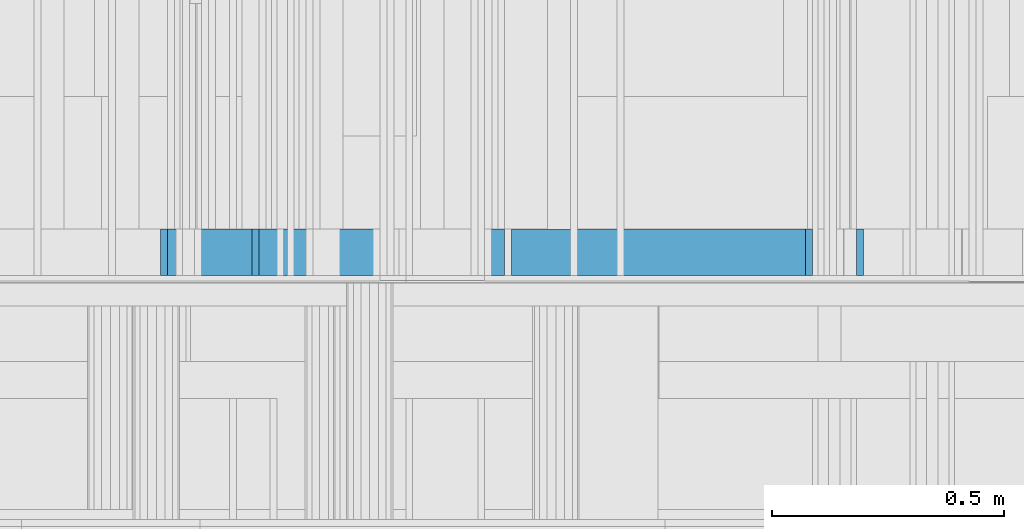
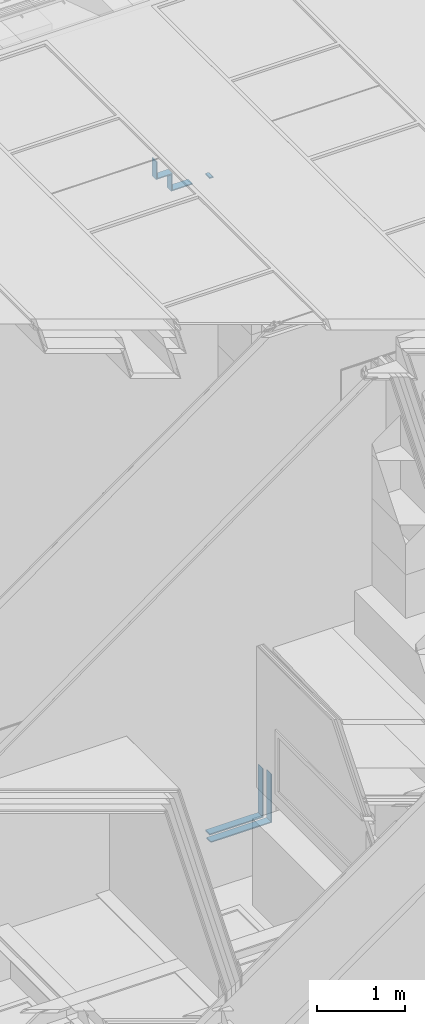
# One storey, part 229 of 583: 9 building element parts, 6 elements without a shape of their own.
"""IFC2X3 building model written with IfcOpenShell, lengths in metres."""

from ifc_helpers import new_model, entity, si_unit, converted_unit, derived_unit, money_unit, direction, frame, origin_with_axes, place, context, subcontext, project, spatial, polyline, outline, extrude, material, type_object, element, aggregate, save


model = new_model("IFC2X3")

# Units and contexts
model_context = context("Model", 3, precision=1e-05, world=origin_with_axes(), true_north=direction((0.0, 1.0)))
body_context = subcontext(model_context, "Body", "Model", "MODEL_VIEW", scale=1.0)
ifc_project = project(units=[si_unit("LENGTHUNIT", "METRE"), si_unit("AREAUNIT", "SQUARE_METRE"), si_unit("VOLUMEUNIT", "CUBIC_METRE"), si_unit("ABSORBEDDOSEUNIT", "GRAY"), si_unit("AMOUNTOFSUBSTANCEUNIT", "MOLE"), si_unit("DOSEEQUIVALENTUNIT", "SIEVERT"), si_unit("ELECTRICCAPACITANCEUNIT", "FARAD"), si_unit("ELECTRICCHARGEUNIT", "COULOMB"), si_unit("ELECTRICCONDUCTANCEUNIT", "SIEMENS"), si_unit("ELECTRICCURRENTUNIT", "AMPERE"), si_unit("ELECTRICRESISTANCEUNIT", "OHM"), si_unit("ELECTRICVOLTAGEUNIT", "VOLT"), si_unit("ENERGYUNIT", "JOULE"), si_unit("FORCEUNIT", "NEWTON"), si_unit("FREQUENCYUNIT", "HERTZ"), si_unit("ILLUMINANCEUNIT", "LUX"), si_unit("INDUCTANCEUNIT", "HENRY"), si_unit("LUMINOUSFLUXUNIT", "LUMEN"), si_unit("LUMINOUSINTENSITYUNIT", "CANDELA"), si_unit("MAGNETICFLUXDENSITYUNIT", "TESLA"), si_unit("MAGNETICFLUXUNIT", "WEBER"), si_unit("MASSUNIT", "GRAM"), converted_unit("PLANEANGLEUNIT", "degree", entity("IfcReal", 0.0174532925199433), si_unit("PLANEANGLEUNIT", "RADIAN"), dimensions=[0, 0, 0, 0, 0, 0, 0]), si_unit("POWERUNIT", "WATT"), si_unit("PRESSUREUNIT", "PASCAL"), si_unit("RADIOACTIVITYUNIT", "BECQUEREL"), si_unit("SOLIDANGLEUNIT", "STERADIAN"), si_unit("THERMODYNAMICTEMPERATUREUNIT", "KELVIN"), si_unit("TIMEUNIT", "SECOND"), derived_unit("ACCELERATIONUNIT", [(si_unit("LENGTHUNIT", "METRE"), 1), (si_unit("TIMEUNIT", "SECOND"), -2)]), derived_unit("ANGULARVELOCITYUNIT", [(converted_unit("PLANEANGLEUNIT", "degree", entity("IfcReal", 0.0174532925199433), si_unit("PLANEANGLEUNIT", "RADIAN"), dimensions=[0, 0, 0, 0, 0, 0, 0]), 1), (si_unit("TIMEUNIT", "SECOND"), -1)]), derived_unit("CURVATUREUNIT", [(converted_unit("PLANEANGLEUNIT", "degree", entity("IfcReal", 0.0174532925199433), si_unit("PLANEANGLEUNIT", "RADIAN"), dimensions=[0, 0, 0, 0, 0, 0, 0]), 1), (si_unit("LENGTHUNIT", "METRE"), -1)]), derived_unit("DYNAMICVISCOSITYUNIT", [(si_unit("PRESSUREUNIT", "PASCAL"), 1), (si_unit("TIMEUNIT", "SECOND"), 1)]), derived_unit("HEATFLUXDENSITYUNIT", [(si_unit("POWERUNIT", "WATT"), 1), (si_unit("LENGTHUNIT", "METRE"), -2)]), derived_unit("HEATINGVALUEUNIT", [(si_unit("ENERGYUNIT", "JOULE"), 1), (si_unit("MASSUNIT", "GRAM"), -1)]), derived_unit("INTEGERCOUNTRATEUNIT", [(si_unit("TIMEUNIT", "SECOND"), -1)]), derived_unit("IONCONCENTRATIONUNIT", [(si_unit("MASSUNIT", "GRAM"), 1), (si_unit("VOLUMEUNIT", "CUBIC_METRE"), -1)]), derived_unit("ISOTHERMALMOISTURECAPACITYUNIT", [(si_unit("VOLUMEUNIT", "CUBIC_METRE"), 1), (si_unit("MASSUNIT", "GRAM"), -1)]), derived_unit("KINEMATICVISCOSITYUNIT", [(si_unit("AREAUNIT", "SQUARE_METRE"), 1), (si_unit("TIMEUNIT", "SECOND"), -1)]), derived_unit("LINEARFORCEUNIT", [(si_unit("FORCEUNIT", "NEWTON"), 1), (si_unit("LENGTHUNIT", "METRE"), -1)]), derived_unit("LINEARMOMENTUNIT", [(si_unit("FORCEUNIT", "NEWTON"), 1), (si_unit("LENGTHUNIT", "METRE"), -1)]), derived_unit("LINEARSTIFFNESSUNIT", [(si_unit("FORCEUNIT", "NEWTON"), 1), (si_unit("LENGTHUNIT", "METRE"), -1)]), derived_unit("LINEARVELOCITYUNIT", [(si_unit("LENGTHUNIT", "METRE"), 1), (si_unit("TIMEUNIT", "SECOND"), -1)]), derived_unit("LUMINOUSINTENSITYDISTRIBUTIONUNIT", [(si_unit("LUMINOUSINTENSITYUNIT", "CANDELA"), 1), (si_unit("LUMINOUSFLUXUNIT", "LUMEN"), -1)]), derived_unit("MASSDENSITYUNIT", [(si_unit("MASSUNIT", "GRAM"), 1), (si_unit("VOLUMEUNIT", "CUBIC_METRE"), -1)]), derived_unit("MASSFLOWRATEUNIT", [(si_unit("MASSUNIT", "GRAM"), 1), (si_unit("TIMEUNIT", "SECOND"), -1)]), derived_unit("MASSPERLENGTHUNIT", [(si_unit("MASSUNIT", "GRAM"), 1), (si_unit("LENGTHUNIT", "METRE"), -1)]), derived_unit("MODULUSOFELASTICITYUNIT", [(si_unit("FORCEUNIT", "NEWTON"), 1), (si_unit("AREAUNIT", "SQUARE_METRE"), -1)]), derived_unit("MODULUSOFLINEARSUBGRADEREACTIONUNIT", [(si_unit("FORCEUNIT", "NEWTON"), 1), (si_unit("LENGTHUNIT", "METRE"), -2)]), derived_unit("MODULUSOFROTATIONALSUBGRADEREACTIONUNIT", [(si_unit("FORCEUNIT", "NEWTON"), 1), (si_unit("LENGTHUNIT", "METRE"), 1)]), derived_unit("MODULUSOFSUBGRADEREACTIONUNIT", [(si_unit("FORCEUNIT", "NEWTON"), 1), (si_unit("VOLUMEUNIT", "CUBIC_METRE"), -1)]), derived_unit("MOISTUREDIFFUSIVITYUNIT", [(si_unit("VOLUMEUNIT", "CUBIC_METRE"), 1), (si_unit("TIMEUNIT", "SECOND"), -1)]), derived_unit("MOLECULARWEIGHTUNIT", [(si_unit("MASSUNIT", "GRAM"), 1), (si_unit("AMOUNTOFSUBSTANCEUNIT", "MOLE"), -1)]), derived_unit("PLANARFORCEUNIT", [(si_unit("FORCEUNIT", "NEWTON"), 1), (si_unit("LENGTHUNIT", "METRE"), -2)]), derived_unit("ROTATIONALFREQUENCYUNIT", [(si_unit("TIMEUNIT", "SECOND"), -1)]), derived_unit("ROTATIONALMASSUNIT", [(si_unit("MASSUNIT", "GRAM"), 1), (si_unit("LENGTHUNIT", "METRE"), 2)]), derived_unit("ROTATIONALSTIFFNESSUNIT", [(si_unit("FORCEUNIT", "NEWTON"), 1), (si_unit("LENGTHUNIT", "METRE"), 1), (converted_unit("PLANEANGLEUNIT", "degree", entity("IfcReal", 0.0174532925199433), si_unit("PLANEANGLEUNIT", "RADIAN"), dimensions=[0, 0, 0, 0, 0, 0, 0]), -1)]), derived_unit("SECTIONAREAINTEGRALUNIT", [(si_unit("LENGTHUNIT", "METRE"), 5)]), derived_unit("SECTIONMODULUSUNIT", [(si_unit("LENGTHUNIT", "METRE"), 3)]), derived_unit("SHEARMODULUSUNIT", [(si_unit("FORCEUNIT", "NEWTON"), 1), (si_unit("AREAUNIT", "SQUARE_METRE"), -1)]), derived_unit("SOUNDPOWERUNIT", [(si_unit("ENERGYUNIT", "JOULE"), 1), (si_unit("TIMEUNIT", "SECOND"), -1)]), derived_unit("SPECIFICHEATCAPACITYUNIT", [(si_unit("FORCEUNIT", "NEWTON"), 1), (si_unit("MASSUNIT", "GRAM"), -1), (si_unit("THERMODYNAMICTEMPERATUREUNIT", "KELVIN"), -1)]), derived_unit("TEMPERATUREGRADIENTUNIT", [(si_unit("THERMODYNAMICTEMPERATUREUNIT", "KELVIN"), 1), (si_unit("LENGTHUNIT", "METRE"), -1)]), derived_unit("THERMALADMITTANCEUNIT", [(si_unit("POWERUNIT", "WATT"), 1), (si_unit("AREAUNIT", "SQUARE_METRE"), -1), (si_unit("THERMODYNAMICTEMPERATUREUNIT", "KELVIN"), -1)]), derived_unit("THERMALCONDUCTANCEUNIT", [(si_unit("POWERUNIT", "WATT"), 1), (si_unit("LENGTHUNIT", "METRE"), -1), (si_unit("THERMODYNAMICTEMPERATUREUNIT", "KELVIN"), -1)]), derived_unit("THERMALEXPANSIONCOEFFICIENTUNIT", [(si_unit("THERMODYNAMICTEMPERATUREUNIT", "KELVIN"), -1)]), derived_unit("THERMALRESISTANCEUNIT", [(si_unit("AREAUNIT", "SQUARE_METRE"), 1), (si_unit("POWERUNIT", "WATT"), -1)]), derived_unit("THERMALTRANSMITTANCEUNIT", [(si_unit("POWERUNIT", "WATT"), 1), (si_unit("AREAUNIT", "SQUARE_METRE"), -1), (si_unit("THERMODYNAMICTEMPERATUREUNIT", "KELVIN"), -1)]), derived_unit("TORQUEUNIT", [(si_unit("FORCEUNIT", "NEWTON"), 1), (si_unit("LENGTHUNIT", "METRE"), 1)]), derived_unit("VAPORPERMEABILITYUNIT", [(si_unit("MASSUNIT", "GRAM"), 1), (si_unit("TIMEUNIT", "SECOND"), -1)]), derived_unit("VOLUMETRICFLOWRATEUNIT", [(si_unit("VOLUMEUNIT", "CUBIC_METRE"), 1), (si_unit("TIMEUNIT", "SECOND"), -1)]), derived_unit("WARPINGCONSTANTUNIT", [(si_unit("LENGTHUNIT", "METRE"), 6)]), derived_unit("WARPINGMOMENTUNIT", [(si_unit("FORCEUNIT", "NEWTON"), 1), (si_unit("LENGTHUNIT", "METRE"), 2)]), money_unit("GBP")], contexts=[model_context])

# Site, building, storey
site_placement = place(None, origin_with_axes())
site = spatial("IfcSite", under=ifc_project, at=site_placement, Name="Site", CompositionType="ELEMENT")
building_placement = place(site_placement, origin_with_axes())
building = spatial("IfcBuilding", under=site, at=building_placement, Name="Building01", CompositionType="ELEMENT")
storey_placement = place(building_placement, frame((0.0, 0.0, 20.78), z_axis=(0.0, 0.0, 1.0), x_axis=(1.0, 0.0, 0.0)))
storey = spatial("IfcBuildingStorey", under=building, at=storey_placement, Name="RL", CompositionType="ELEMENT", Elevation=20.78)

# Wall, building element parts
wall_type_1 = type_object("IfcWallType", Name="SHE_A-Walls_Type05a_Partition_95mm_tall", PredefinedType="NOTDEFINED")
wall_1_placement = place(storey_placement, frame((8.82, 12.13, -3.506868), z_axis=(0.0, 1.0, 0.0), x_axis=(1.0, 0.0, 0.0)))
wall_1 = element("IfcWall", 1, at=wall_1_placement, inside=storey, type_object=wall_type_1, Name="5A", ObjectType="SHE_A-Walls_Type05a_Partition_95mm_tall")
ifc_material = material(Name="A_BSUK_Walls_Timber")
placement_1 = place(wall_1_placement, origin_with_axes())
building_element_part_1 = element("IfcBuildingElementPart", 2, at=placement_1, material=ifc_material, Name="2", context=body_context, shape_type="SweptSolid", body=[
    extrude(outline(polyline([(0.815, 0.05), (0.015, 0.05), (0.015, 0.035), (0.8, 0.035), (0.815, 0.05)])), frame((0.0, 0.0, 0.015), z_axis=(0.0, 0.0, 1.0), x_axis=(1.0, 0.0, 0.0)), (0.0, 0.0, 1.0), 0.1),
])
building_element_part_2 = element("IfcBuildingElementPart", 3, at=placement_1, material=ifc_material, Name="3", context=body_context, shape_type="SweptSolid", body=[
    extrude(outline(polyline([(0.705, -0.06), (0.0, -0.06), (0.0, -0.075), (0.69, -0.075), (0.705, -0.06)])), frame((0.0, 0.0, 0.015), z_axis=(0.0, 0.0, 1.0), x_axis=(1.0, 0.0, 0.0)), (0.0, 0.0, 1.0), 0.1),
])
aggregate(wall_1, [building_element_part_1, building_element_part_2])

wall_2_placement = place(storey_placement, frame((9.585, 12.13, -3.506868), z_axis=(0.0, 1.0, 0.0), x_axis=(0.0, 0.0, 1.0)))
wall_2 = element("IfcWall", 4, at=wall_2_placement, inside=storey, type_object=wall_type_1, Name="5A", ObjectType="SHE_A-Walls_Type05a_Partition_95mm_tall")
placement_2 = place(wall_2_placement, origin_with_axes())
building_element_part_3 = element("IfcBuildingElementPart", 5, at=placement_2, material=ifc_material, Name="2", context=body_context, shape_type="SweptSolid", body=[
    extrude(outline(polyline([(0.616868, 0.05), (-0.05, 0.05), (-0.035, 0.035), (0.631868, 0.035), (0.616868, 0.05)])), frame((0.0, 0.0, 0.015), z_axis=(0.0, 0.0, 1.0), x_axis=(1.0, 0.0, 0.0)), (0.0, 0.0, 1.0), 0.1),
])
building_element_part_4 = element("IfcBuildingElementPart", 6, at=placement_2, material=ifc_material, Name="3", context=body_context, shape_type="SweptSolid", body=[
    extrude(outline(polyline([(0.726868, -0.06), (0.06, -0.06), (0.075, -0.075), (0.741868, -0.075), (0.726868, -0.06)])), frame((0.0, 0.0, 0.015), z_axis=(0.0, 0.0, 1.0), x_axis=(1.0, 0.0, 0.0)), (0.0, 0.0, 1.0), 0.1),
])
aggregate(wall_2, [building_element_part_3, building_element_part_4])

# Wall, building element part
wall_type_2 = type_object("IfcWallType", Name="SHE_A-Walls_Type06f_ExternalWallInsulation_48+15mm", PredefinedType="NOTDEFINED")
wall_3_placement = place(storey_placement, frame((8.397548, 12.13, 5.893178), z_axis=(0.0, 1.0, 0.0), x_axis=(0.0, 0.0, 1.0)))
wall_3 = element("IfcWall", 7, at=wall_3_placement, inside=storey, type_object=wall_type_2, Name="6F", ObjectType="SHE_A-Walls_Type06f_ExternalWallInsulation_48+15mm")
building_element_part_5_placement = place(wall_3_placement, origin_with_axes())
building_element_part_5 = element("IfcBuildingElementPart", 8, at=building_element_part_5_placement, material=ifc_material, Name="2", context=body_context, shape_type="SweptSolid", body=[
    extrude(outline(polyline([(-0.271178, -0.078), (-0.042, -0.078), (-0.042, -0.063), (-0.256178, -0.063), (-0.271178, -0.078)])), frame((0.0, 0.0, 0.015), z_axis=(0.0, 0.0, 1.0), x_axis=(1.0, 0.0, 0.0)), (0.0, 0.0, 1.0), 0.1),
])
aggregate(wall_3, [building_element_part_5])

wall_4_placement = place(storey_placement, frame((8.200326, 12.13, 6.099178), z_axis=(0.0, 1.0, 0.0), x_axis=(0.0, 0.0, -1.0)))
wall_4 = element("IfcWall", 9, at=wall_4_placement, inside=storey, type_object=wall_type_2, Name="6F", ObjectType="SHE_A-Walls_Type06f_ExternalWallInsulation_48+15mm")
building_element_part_6_placement = place(wall_4_placement, origin_with_axes())
building_element_part_6 = element("IfcBuildingElementPart", 10, at=building_element_part_6_placement, material=ifc_material, Name="2", context=body_context, shape_type="SweptSolid", body=[
    extrude(outline(polyline([(0.248, 0.078), (0.0, 0.078), (0.0, 0.063), (0.233, 0.063), (0.248, 0.078)])), frame((0.0, 0.0, 0.015), z_axis=(0.0, 0.0, 1.0), x_axis=(1.0, 0.0, 0.0)), (0.0, 0.0, 1.0), 0.1),
])
aggregate(wall_4, [building_element_part_6])

wall_5_placement = place(storey_placement, frame((8.164326, 12.13, 5.929178), z_axis=(0.0, 1.0, 0.0), x_axis=(1.0, 0.0, 0.0)))
wall_5 = element("IfcWall", 11, at=wall_5_placement, inside=storey, type_object=wall_type_2, Name="6F", ObjectType="SHE_A-Walls_Type06f_ExternalWallInsulation_48+15mm")
building_element_part_7_placement = place(wall_5_placement, origin_with_axes())
building_element_part_7 = element("IfcBuildingElementPart", 12, at=building_element_part_7_placement, material=ifc_material, Name="2", context=body_context, shape_type="SweptSolid", body=[
    extrude(outline(polyline([(0.170222, 0.078), (-0.042, 0.078), (-0.027, 0.063), (0.170222, 0.063), (0.170222, 0.078)])), frame((0.0, 0.0, 0.015), z_axis=(0.0, 0.0, 1.0), x_axis=(1.0, 0.0, 0.0)), (0.0, 0.0, 1.0), 0.1),
])
aggregate(wall_5, [building_element_part_7])

# Wall, building element parts
wall_6_placement = place(storey_placement, frame((8.361548, 12.13, 5.7), z_axis=(0.0, 1.0, 0.0), x_axis=(1.0, 0.0, 0.0)))
wall_6 = element("IfcWall", 13, at=wall_6_placement, inside=storey, type_object=wall_type_2, Name="6F", ObjectType="SHE_A-Walls_Type06f_ExternalWallInsulation_48+15mm")
placement_3 = place(wall_6_placement, origin_with_axes())
building_element_part_8 = element("IfcBuildingElementPart", 14, at=placement_3, material=ifc_material, Name="2", context=body_context, shape_type="SweptSolid", body=[
    extrude(outline(polyline([(0.233452, 0.078), (-0.042, 0.078), (-0.027, 0.063), (0.233452, 0.063), (0.233452, 0.078)])), frame((0.0, 0.0, 0.015), z_axis=(0.0, 0.0, 1.0), x_axis=(1.0, 0.0, 0.0)), (0.0, 0.0, 1.0), 0.1),
])
building_element_part_9 = element("IfcBuildingElementPart", 15, at=placement_3, material=ifc_material, Name="4", context=body_context, shape_type="SweptSolid", body=[
    extrude(outline(polyline([(0.516452, 0.078), (0.458452, 0.078), (0.458452, 0.063), (0.501452, 0.063), (0.516452, 0.078)])), frame((0.0, 0.0, 0.015), z_axis=(0.0, 0.0, 1.0), x_axis=(1.0, 0.0, 0.0)), (0.0, 0.0, 1.0), 0.1),
])
aggregate(wall_6, [building_element_part_8, building_element_part_9])

save(model, "model.ifc")
